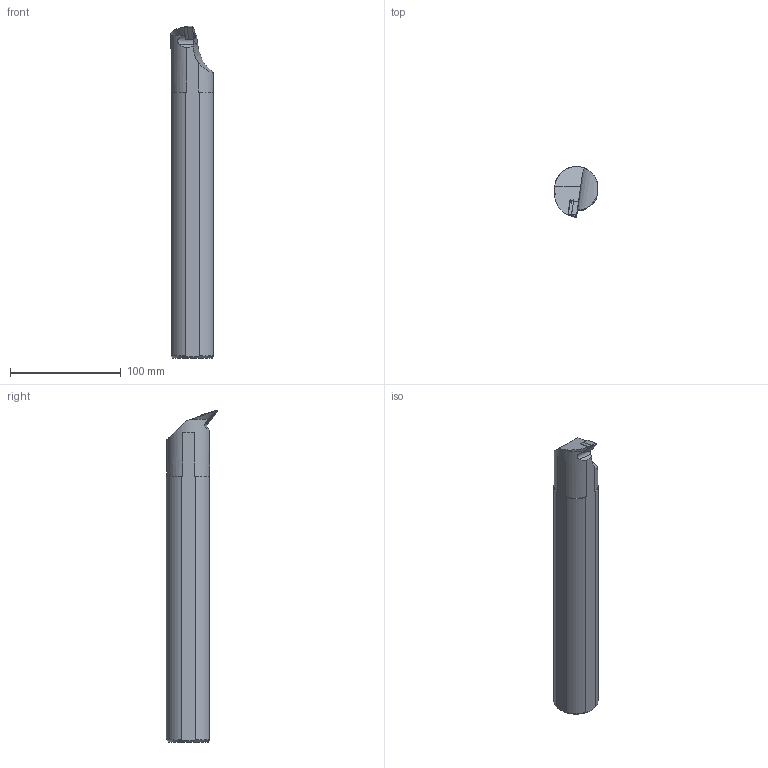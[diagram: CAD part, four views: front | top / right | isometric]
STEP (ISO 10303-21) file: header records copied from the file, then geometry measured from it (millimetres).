
FILE_DESCRIPTION(/* description */ (''),/* implementation_level */ '2;1');
FILE_NAME(/* name */ 'S40T-SVQBR-16-HAAS.stp',/* time_stamp */ '2021-09-29T14:10:23+09:00',/* author */ (''),/* organization */ (''),/* preprocessor_version */ 'ST-DEVELOPER v11',/* originating_system */ 'SIEMENS UGS NX 6.0',/* authorisation */ '');
FILE_SCHEMA (('CONFIG_CONTROL_DESIGN'));
Length unit declared in the file: millimetre
Products named in the file (1): user080E647d
Bounding box: 38.7 x 46.25 x 299.63 mm (x, y, z)
Volume: 343317.6 mm3; surface area: 38867.9 mm2
Topology: 3 solids, 3 shells, 52 faces, 128 edges, 81 vertices
Faces by surface type: plane 28, cylinder 12, cone 9, torus 2, bspline 1
Full cylindrical faces by diameter (mm): 4.4 x1, 5.4 x1, 6.2 x1, 6.7 x1
Entity records: 1667 total; most frequent: CARTESIAN_POINT 408, DIRECTION 240, ORIENTED_EDGE 232, EDGE_CURVE 116, AXIS2_PLACEMENT_3D 89, VERTEX_POINT 78, EDGE_LOOP 64, LINE 62
